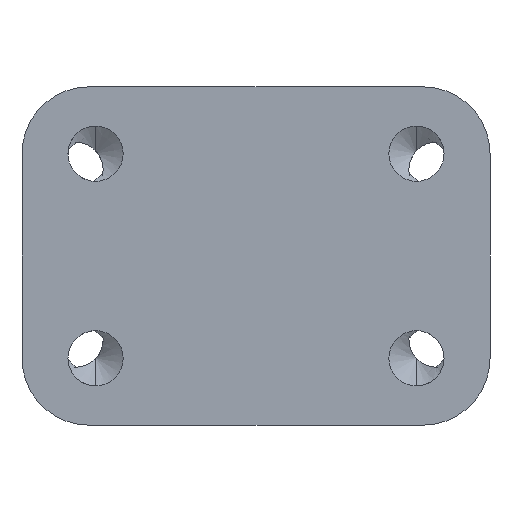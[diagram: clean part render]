
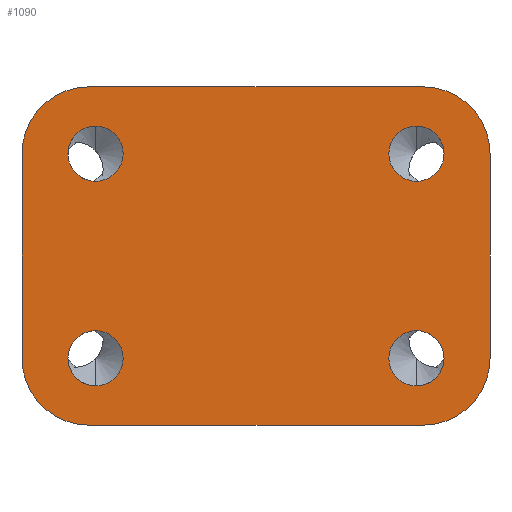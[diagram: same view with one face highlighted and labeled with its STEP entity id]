
A CAD part, front view. The second image highlights one B-rep face of the part: STEP entity #1090.
In plain terms, the highlighted planar face has unit normal (0, -1, 0).
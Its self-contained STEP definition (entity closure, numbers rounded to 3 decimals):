
#3 = EDGE_CURVE ( 'NONE', #752, #702, #784, .T. ) ;
#17 = ORIENTED_EDGE ( 'NONE', *, *, #1669, .F. ) ;
#23 = DIRECTION ( 'NONE',  ( 0., -1., 0. ) ) ;
#52 = EDGE_CURVE ( 'NONE', #1239, #1235, #590, .T. ) ;
#66 = CARTESIAN_POINT ( 'NONE',  ( -12.5, 0., 12.65 ) ) ;
#90 = DIRECTION ( 'NONE',  ( 0., 0., 1. ) ) ;
#91 = DIRECTION ( 'NONE',  ( 0., -1., 0. ) ) ;
#98 = CARTESIAN_POINT ( 'NONE',  ( -12.5, 0., -7.65 ) ) ;
#101 = CARTESIAN_POINT ( 'NONE',  ( -12., 0., 5.583 ) ) ;
#103 = VERTEX_POINT ( 'NONE', #1914 ) ;
#109 = LINE ( 'NONE', #942, #380 ) ;
#148 = DIRECTION ( 'NONE',  ( 0., -1., 0. ) ) ;
#156 = ORIENTED_EDGE ( 'NONE', *, *, #464, .F. ) ;
#161 = DIRECTION ( 'NONE',  ( 1., 0., 0. ) ) ;
#164 = DIRECTION ( 'NONE',  ( -1., 0., 0. ) ) ;
#170 = EDGE_CURVE ( 'NONE', #1506, #1048, #1570, .T. ) ;
#260 = ORIENTED_EDGE ( 'NONE', *, *, #170, .F. ) ;
#297 = DIRECTION ( 'NONE',  ( 0., 0., -1. ) ) ;
#307 = CIRCLE ( 'NONE', #1191, 2.067 ) ;
#308 = AXIS2_PLACEMENT_3D ( 'NONE', #1343, #989, #1255 ) ;
#323 = DIRECTION ( 'NONE',  ( 0., 0., -1. ) ) ;
#328 = CARTESIAN_POINT ( 'NONE',  ( 12., 0., -5.583 ) ) ;
#360 = CARTESIAN_POINT ( 'NONE',  ( 12., 0., -9.717 ) ) ;
#380 = VECTOR ( 'NONE', #1732, 1000. ) ;
#430 = CARTESIAN_POINT ( 'NONE',  ( -17.5, 0., -12.65 ) ) ;
#431 = CARTESIAN_POINT ( 'NONE',  ( 12., 0., 7.65 ) ) ;
#435 = CIRCLE ( 'NONE', #1033, 2.067 ) ;
#445 = DIRECTION ( 'NONE',  ( 0., -1., 0. ) ) ;
#447 = DIRECTION ( 'NONE',  ( 0., -1., 0. ) ) ;
#448 = VERTEX_POINT ( 'NONE', #360 ) ;
#463 = PLANE ( 'NONE',  #900 ) ;
#464 = EDGE_CURVE ( 'NONE', #103, #1558, #307, .T. ) ;
#475 = DIRECTION ( 'NONE',  ( 0., -1., 0. ) ) ;
#488 = EDGE_CURVE ( 'NONE', #752, #1772, #1563, .T. ) ;
#501 = CARTESIAN_POINT ( 'NONE',  ( 12.5, 0., -12.65 ) ) ;
#515 = CARTESIAN_POINT ( 'NONE',  ( 12.5, 0., -7.65 ) ) ;
#521 = EDGE_LOOP ( 'NONE', ( #1373, #156 ) ) ;
#545 = CARTESIAN_POINT ( 'NONE',  ( -12.5, 0., -12.65 ) ) ;
#551 = EDGE_CURVE ( 'NONE', #1859, #1048, #1471, .T. ) ;
#556 = CARTESIAN_POINT ( 'NONE',  ( -17.5, 0., 7.65 ) ) ;
#586 = VERTEX_POINT ( 'NONE', #1760 ) ;
#590 = CIRCLE ( 'NONE', #1698, 2.067 ) ;
#596 = FACE_BOUND ( 'NONE', #521, .T. ) ;
#641 = DIRECTION ( 'NONE',  ( 0., 0., -1. ) ) ;
#689 = EDGE_CURVE ( 'NONE', #1496, #586, #1741, .T. ) ;
#690 = DIRECTION ( 'NONE',  ( 0., -1., 0. ) ) ;
#699 = FACE_BOUND ( 'NONE', #1083, .T. ) ;
#702 = VERTEX_POINT ( 'NONE', #1862 ) ;
#739 = VERTEX_POINT ( 'NONE', #328 ) ;
#751 = CARTESIAN_POINT ( 'NONE',  ( -12., 0., -7.65 ) ) ;
#752 = VERTEX_POINT ( 'NONE', #501 ) ;
#756 = AXIS2_PLACEMENT_3D ( 'NONE', #98, #91, #90 ) ;
#782 = CARTESIAN_POINT ( 'NONE',  ( 0., 0., 0. ) ) ;
#784 = CIRCLE ( 'NONE', #920, 5. ) ;
#787 = FACE_BOUND ( 'NONE', #1257, .T. ) ;
#798 = EDGE_CURVE ( 'NONE', #1506, #876, #918, .T. ) ;
#806 = CARTESIAN_POINT ( 'NONE',  ( -12., 0., -9.717 ) ) ;
#814 = DIRECTION ( 'NONE',  ( 0., -1., 0. ) ) ;
#817 = ORIENTED_EDGE ( 'NONE', *, *, #551, .T. ) ;
#833 = CIRCLE ( 'NONE', #1918, 2.067 ) ;
#848 = CARTESIAN_POINT ( 'NONE',  ( -12.5, 0., 7.65 ) ) ;
#869 = CARTESIAN_POINT ( 'NONE',  ( 12., 0., -7.65 ) ) ;
#876 = VERTEX_POINT ( 'NONE', #556 ) ;
#900 = AXIS2_PLACEMENT_3D ( 'NONE', #782, #1314, #1989 ) ;
#918 = CIRCLE ( 'NONE', #1549, 5. ) ;
#920 = AXIS2_PLACEMENT_3D ( 'NONE', #515, #1537, #1254 ) ;
#942 = CARTESIAN_POINT ( 'NONE',  ( -17.5, 0., -12.65 ) ) ;
#974 = VECTOR ( 'NONE', #161, 1000. ) ;
#981 = EDGE_CURVE ( 'NONE', #448, #739, #1321, .T. ) ;
#989 = DIRECTION ( 'NONE',  ( 0., -1., 0. ) ) ;
#995 = FACE_OUTER_BOUND ( 'NONE', #1176, .T. ) ;
#1000 = ORIENTED_EDGE ( 'NONE', *, *, #488, .F. ) ;
#1033 = AXIS2_PLACEMENT_3D ( 'NONE', #869, #814, #641 ) ;
#1038 = DIRECTION ( 'NONE',  ( 0., 0., -1. ) ) ;
#1048 = VERTEX_POINT ( 'NONE', #1074 ) ;
#1074 = CARTESIAN_POINT ( 'NONE',  ( 12.5, 0., 12.65 ) ) ;
#1083 = EDGE_LOOP ( 'NONE', ( #1819, #1302 ) ) ;
#1090 = ADVANCED_FACE ( 'NONE', ( #787, #699, #596, #1792, #995 ), #463, .F. ) ;
#1118 = VECTOR ( 'NONE', #164, 1000. ) ;
#1162 = AXIS2_PLACEMENT_3D ( 'NONE', #1885, #148, #1488 ) ;
#1176 = EDGE_LOOP ( 'NONE', ( #260, #1260, #1662, #1707, #1000, #1717, #1820, #817 ) ) ;
#1191 = AXIS2_PLACEMENT_3D ( 'NONE', #751, #690, #1508 ) ;
#1235 = VERTEX_POINT ( 'NONE', #1345 ) ;
#1239 = VERTEX_POINT ( 'NONE', #1364 ) ;
#1241 = EDGE_LOOP ( 'NONE', ( #1395, #1920 ) ) ;
#1243 = VERTEX_POINT ( 'NONE', #1368 ) ;
#1254 = DIRECTION ( 'NONE',  ( 0., 0., 1. ) ) ;
#1255 = DIRECTION ( 'NONE',  ( 0., 0., 1. ) ) ;
#1257 = EDGE_LOOP ( 'NONE', ( #1363, #17 ) ) ;
#1259 = CARTESIAN_POINT ( 'NONE',  ( 12., 0., -7.65 ) ) ;
#1260 = ORIENTED_EDGE ( 'NONE', *, *, #798, .T. ) ;
#1291 = DIRECTION ( 'NONE',  ( 0., -1., 0. ) ) ;
#1302 = ORIENTED_EDGE ( 'NONE', *, *, #52, .F. ) ;
#1314 = DIRECTION ( 'NONE',  ( 0., 1., 0. ) ) ;
#1321 = CIRCLE ( 'NONE', #1511, 2.067 ) ;
#1343 = CARTESIAN_POINT ( 'NONE',  ( 12.5, 0., 7.65 ) ) ;
#1345 = CARTESIAN_POINT ( 'NONE',  ( 12., 0., 5.583 ) ) ;
#1363 = ORIENTED_EDGE ( 'NONE', *, *, #689, .F. ) ;
#1364 = CARTESIAN_POINT ( 'NONE',  ( 12., 0., 9.717 ) ) ;
#1367 = EDGE_CURVE ( 'NONE', #1859, #702, #1606, .T. ) ;
#1368 = CARTESIAN_POINT ( 'NONE',  ( -17.5, 0., -7.65 ) ) ;
#1373 = ORIENTED_EDGE ( 'NONE', *, *, #1837, .F. ) ;
#1374 = DIRECTION ( 'NONE',  ( 0., 0., -1. ) ) ;
#1376 = CIRCLE ( 'NONE', #1957, 2.067 ) ;
#1395 = ORIENTED_EDGE ( 'NONE', *, *, #981, .F. ) ;
#1414 = DIRECTION ( 'NONE',  ( 0., 0., 1. ) ) ;
#1467 = EDGE_CURVE ( 'NONE', #1243, #1772, #1713, .T. ) ;
#1471 = CIRCLE ( 'NONE', #308, 5. ) ;
#1488 = DIRECTION ( 'NONE',  ( 0., 0., -1. ) ) ;
#1496 = VERTEX_POINT ( 'NONE', #101 ) ;
#1506 = VERTEX_POINT ( 'NONE', #66 ) ;
#1508 = DIRECTION ( 'NONE',  ( 0., 0., -1. ) ) ;
#1511 = AXIS2_PLACEMENT_3D ( 'NONE', #1259, #23, #323 ) ;
#1518 = CARTESIAN_POINT ( 'NONE',  ( -12., 0., 7.65 ) ) ;
#1537 = DIRECTION ( 'NONE',  ( 0., -1., 0. ) ) ;
#1549 = AXIS2_PLACEMENT_3D ( 'NONE', #848, #447, #1414 ) ;
#1558 = VERTEX_POINT ( 'NONE', #806 ) ;
#1563 = LINE ( 'NONE', #430, #1118 ) ;
#1570 = LINE ( 'NONE', #1599, #974 ) ;
#1599 = CARTESIAN_POINT ( 'NONE',  ( -17.5, 0., 12.65 ) ) ;
#1606 = LINE ( 'NONE', #1767, #1761 ) ;
#1662 = ORIENTED_EDGE ( 'NONE', *, *, #1739, .F. ) ;
#1669 = EDGE_CURVE ( 'NONE', #586, #1496, #1376, .T. ) ;
#1698 = AXIS2_PLACEMENT_3D ( 'NONE', #431, #445, #1038 ) ;
#1705 = AXIS2_PLACEMENT_3D ( 'NONE', #1710, #475, #1805 ) ;
#1707 = ORIENTED_EDGE ( 'NONE', *, *, #1467, .T. ) ;
#1710 = CARTESIAN_POINT ( 'NONE',  ( -12., 0., -7.65 ) ) ;
#1713 = CIRCLE ( 'NONE', #756, 5. ) ;
#1717 = ORIENTED_EDGE ( 'NONE', *, *, #3, .T. ) ;
#1732 = DIRECTION ( 'NONE',  ( 0., 0., 1. ) ) ;
#1735 = EDGE_CURVE ( 'NONE', #739, #448, #435, .T. ) ;
#1739 = EDGE_CURVE ( 'NONE', #1243, #876, #109, .T. ) ;
#1741 = CIRCLE ( 'NONE', #1162, 2.067 ) ;
#1760 = CARTESIAN_POINT ( 'NONE',  ( -12., 0., 9.717 ) ) ;
#1761 = VECTOR ( 'NONE', #297, 1000. ) ;
#1767 = CARTESIAN_POINT ( 'NONE',  ( 17.5, 0., -12.65 ) ) ;
#1772 = VERTEX_POINT ( 'NONE', #545 ) ;
#1792 = FACE_BOUND ( 'NONE', #1241, .T. ) ;
#1799 = CARTESIAN_POINT ( 'NONE',  ( 17.5, 0., 7.65 ) ) ;
#1805 = DIRECTION ( 'NONE',  ( 0., 0., -1. ) ) ;
#1819 = ORIENTED_EDGE ( 'NONE', *, *, #1863, .F. ) ;
#1820 = ORIENTED_EDGE ( 'NONE', *, *, #1367, .F. ) ;
#1837 = EDGE_CURVE ( 'NONE', #1558, #103, #1854, .T. ) ;
#1854 = CIRCLE ( 'NONE', #1705, 2.067 ) ;
#1859 = VERTEX_POINT ( 'NONE', #1799 ) ;
#1862 = CARTESIAN_POINT ( 'NONE',  ( 17.5, 0., -7.65 ) ) ;
#1863 = EDGE_CURVE ( 'NONE', #1235, #1239, #833, .T. ) ;
#1876 = DIRECTION ( 'NONE',  ( 0., -1., 0. ) ) ;
#1881 = DIRECTION ( 'NONE',  ( 0., 0., -1. ) ) ;
#1884 = CARTESIAN_POINT ( 'NONE',  ( 12., 0., 7.65 ) ) ;
#1885 = CARTESIAN_POINT ( 'NONE',  ( -12., 0., 7.65 ) ) ;
#1914 = CARTESIAN_POINT ( 'NONE',  ( -12., 0., -5.583 ) ) ;
#1918 = AXIS2_PLACEMENT_3D ( 'NONE', #1884, #1876, #1881 ) ;
#1920 = ORIENTED_EDGE ( 'NONE', *, *, #1735, .F. ) ;
#1957 = AXIS2_PLACEMENT_3D ( 'NONE', #1518, #1291, #1374 ) ;
#1989 = DIRECTION ( 'NONE',  ( 0., 0., 1. ) ) ;
